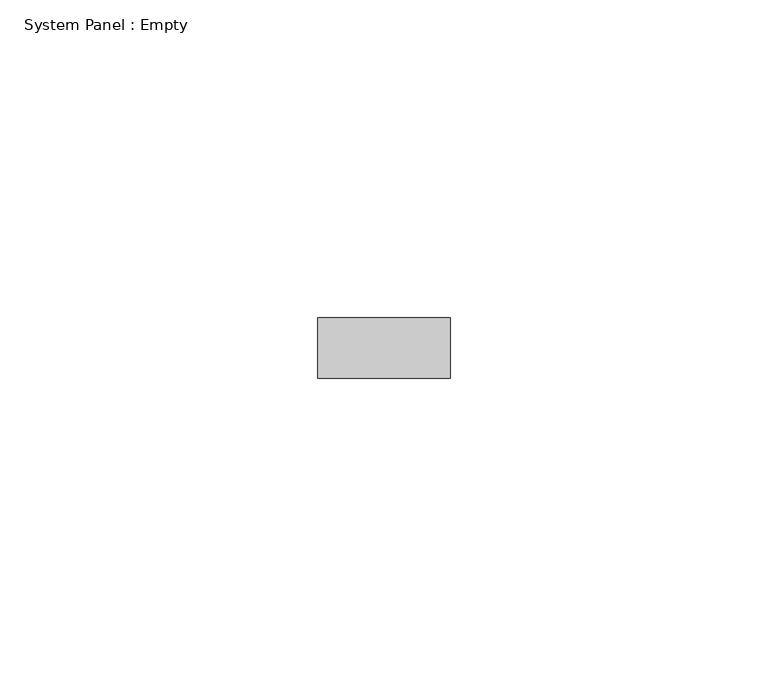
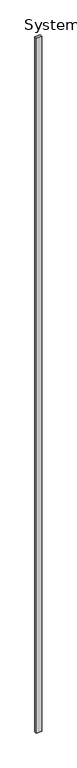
"""IFC4 building model written with IfcOpenShell, lengths in millimetres: plate geometry, System Panel : Empty."""

import ifcopenshell
import ifcopenshell.guid

model = None  # the IFC model being written
_history = None  # IfcOwnerHistory: only IFC2X3 demands one
_inside = {}  # id of a spatial element -> (the spatial element, [elements in it])
_under = {}  # id of a project, library or spatial element -> (it, [spatial elements below it])
_declared = {}  # id of a project -> (the project, [libraries it declares])
_typed = {}  # id of a type object -> (the type object, [elements of that type])
_made_of = {}  # id of a material, layer set ... -> (it, [elements and type objects made of it])


def new_model(schema):
    """Start an empty IFC model of exactly this schema.

    Asked for "IFC4X3", IfcOpenShell would pick the latest addendum, in which some entities
    have other attributes; the version numbers below select the first issue.
    IFC2X3 requires an IfcOwnerHistory on every rooted entity: one is made here for all.
    """
    global model, _history
    if schema == "IFC4X3":
        model = ifcopenshell.file(schema_version=(4, 3, 0, 0))
    else:
        model = ifcopenshell.file(schema=schema)
    _inside.clear()
    _under.clear()
    _declared.clear()
    _typed.clear()
    _made_of.clear()
    _history = None
    if model.schema == "IFC2X3":
        org = make("IfcOrganization", Name="unknown")
        user = make(
            "IfcPersonAndOrganization",
            ThePerson=make("IfcPerson", FamilyName="unknown"),
            TheOrganization=org,
        )
        app = make(
            "IfcApplication",
            ApplicationDeveloper=org,
            Version="unknown",
            ApplicationFullName="unknown",
            ApplicationIdentifier="unknown",
        )
        _history = make(
            "IfcOwnerHistory",
            OwningUser=user,
            OwningApplication=app,
            ChangeAction="ADDED",
            CreationDate=0,
        )
    return model


def make(cls, **values):
    """One entity of the class cls with the attributes given. An attribute that is None is left unset."""
    return model.create_entity(
        cls, **{name: value for name, value in values.items() if value is not None}
    )


def rooted(cls, **values):
    """An entity with a GlobalId (a new one), such as an element, a storey or a relation."""
    return make(cls, GlobalId=ifcopenshell.guid.new(), OwnerHistory=_history, **values)


def si_unit(unit_type, name, prefix=None):
    """IfcSIUnit, for example si_unit("LENGTHUNIT", "METRE", prefix="MILLI")."""
    return make("IfcSIUnit", UnitType=unit_type, Prefix=prefix, Name=name)


def assignment(units):
    """IfcUnitAssignment: the units of a project."""
    return None if units is None else make("IfcUnitAssignment", Units=units)


def point(xyz):
    """IfcCartesianPoint."""
    return None if xyz is None else make("IfcCartesianPoint", Coordinates=xyz)


def direction(xyz):
    """IfcDirection."""
    return None if xyz is None else make("IfcDirection", DirectionRatios=xyz)


def frame(location, z_axis=None, x_axis=None):
    """IfcAxis2Placement3D, a coordinate frame: its origin and axes. An axis left out is left unset."""
    return make(
        "IfcAxis2Placement3D",
        Location=point(location),
        Axis=direction(z_axis),
        RefDirection=direction(x_axis),
    )


def origin():
    """The frame at (0, 0, 0) with its axes left unset."""
    return frame((0.0, 0.0, 0.0))


def origin_with_axes():
    """The frame at (0, 0, 0) with the z axis (0, 0, 1) and the x axis (1, 0, 0) written out."""
    return frame((0.0, 0.0, 0.0), z_axis=(0.0, 0.0, 1.0), x_axis=(1.0, 0.0, 0.0))


def place(relative_to, where):
    """IfcLocalPlacement: puts the frame where relative to a parent placement (None: the world)."""
    return make(
        "IfcLocalPlacement", PlacementRelTo=relative_to, RelativePlacement=where
    )


def context(
    kind, dimensions, precision=None, world=None, true_north=None, identifier=None
):
    """IfcGeometricRepresentationContext, for example the 3D "Model" context."""
    return make(
        "IfcGeometricRepresentationContext",
        ContextIdentifier=identifier,
        ContextType=kind,
        CoordinateSpaceDimension=dimensions,
        Precision=precision,
        WorldCoordinateSystem=world,
        TrueNorth=true_north,
    )


def project(units=None, contexts=None):
    """IfcProject with its units and contexts."""
    return rooted(
        "IfcProject",
        Name="project",
        RepresentationContexts=contexts,
        UnitsInContext=assignment(units),
    )


def spatial(cls, under=None, at=None, **own):
    """A site, building, storey or space (cls), placed at a placement, below another one or the project."""
    s = rooted(cls, ObjectPlacement=at, **own)
    if under is not None:
        _under.setdefault(under.id(), (under, []))[1].append(s)
    return s


def polyline(points):
    """IfcPolyline through the points."""
    return make("IfcPolyline", Points=[point(p) for p in points])


def outline(outer, holes=None, kind="AREA"):
    """IfcArbitraryClosedProfileDef: a profile drawn as a closed curve; with holes, ...WithVoids."""
    if holes is None:
        return make("IfcArbitraryClosedProfileDef", ProfileType=kind, OuterCurve=outer)
    return make(
        "IfcArbitraryProfileDefWithVoids",
        ProfileType=kind,
        OuterCurve=outer,
        InnerCurves=holes,
    )


def extrude(swept, where, along, depth):
    """IfcExtrudedAreaSolid: the profile swept, set in the frame where, extruded along a direction by depth."""
    return make(
        "IfcExtrudedAreaSolid",
        SweptArea=swept,
        Position=where,
        ExtrudedDirection=direction(along),
        Depth=depth,
    )


def shape(context_of_items, identifier, shape_type, items):
    """IfcShapeRepresentation: the items that make up one representation, for example the "Body"."""
    return make(
        "IfcShapeRepresentation",
        ContextOfItems=context_of_items,
        RepresentationIdentifier=identifier,
        RepresentationType=shape_type,
        Items=items,
    )


def source(mapping_origin, context_of_items, identifier, shape_type, items):
    """IfcRepresentationMap: a shape defined once, which mapped items show again and again."""
    return make(
        "IfcRepresentationMap",
        MappingOrigin=mapping_origin,
        MappedRepresentation=shape(context_of_items, identifier, shape_type, items),
    )


def transform(
    local_origin,
    x_axis=None,
    y_axis=None,
    z_axis=None,
    scale=None,
    scale2=None,
    scale3=None,
    uniform=True,
):
    """IfcCartesianTransformationOperator3D, or its non-uniform kind. x_axis, y_axis, z_axis: its Axis1, 2, 3."""
    if uniform:
        return make(
            "IfcCartesianTransformationOperator3D",
            Axis1=direction(x_axis),
            Axis2=direction(y_axis),
            LocalOrigin=point(local_origin),
            Scale=scale,
            Axis3=direction(z_axis),
        )
    return make(
        "IfcCartesianTransformationOperator3DnonUniform",
        Axis1=direction(x_axis),
        Axis2=direction(y_axis),
        LocalOrigin=point(local_origin),
        Scale=scale,
        Axis3=direction(z_axis),
        Scale2=scale2,
        Scale3=scale3,
    )


def mapped(mapping_source, mapping_target):
    """IfcMappedItem: shows the shape of a source again, moved by a transform."""
    return make(
        "IfcMappedItem", MappingSource=mapping_source, MappingTarget=mapping_target
    )


def made_of(thing, what):
    """Note that an element or type object is made of a material, layer set ...; save() writes the relation."""
    if what is not None:
        _made_of.setdefault(what.id(), (what, []))[1].append(thing)
    return thing


def element(
    cls,
    number,
    at=None,
    inside=None,
    cuts=None,
    type_object=None,
    material=None,
    context=None,
    identifier="Body",
    shape_type=None,
    held_by="IfcProductDefinitionShape",
    body=None,
    shapes=None,
    **own,
):
    """One element of the class cls, such as IfcWall. Its Tag is "e" and its number.

    at: its placement. inside: the storey or other place that contains it. cuts: it is an
    opening in that element (IfcRelVoidsElement). A single representation is given by context,
    identifier, shape_type and body (its items); several are given by shapes. held_by: the class
    of the entity that holds the representations. save() writes the other relations.
    """
    e = rooted(cls, Tag="e%d" % number, ObjectPlacement=at, **own)
    if body is not None:
        shapes = [shape(context, identifier, shape_type, body)]
    if shapes is not None:
        e.Representation = make(held_by, Representations=shapes)
    if inside is not None:
        _inside.setdefault(inside.id(), (inside, []))[1].append(e)
    if cuts is not None:
        rooted(
            "IfcRelVoidsElement", RelatingBuildingElement=cuts, RelatedOpeningElement=e
        )
    if type_object is not None:
        _typed.setdefault(type_object.id(), (type_object, []))[1].append(e)
    return made_of(e, material)


def aggregate(whole, parts):
    """IfcRelAggregates: a whole, such as a stair, and the parts it consists of."""
    return rooted("IfcRelAggregates", RelatingObject=whole, RelatedObjects=parts)


def save(model, path):
    """Write the relations noted so far, then the file.

    IfcRelAggregates (storeys below a building ...), IfcRelContainedInSpatialStructure (elements
    in a storey), IfcRelDefinesByType, IfcRelAssociatesMaterial and IfcRelDeclares: one each for
    every whole, place, type object, material and project.
    """
    for whole, parts in _under.values():
        aggregate(whole, parts)
    for where, things in _inside.values():
        rooted(
            "IfcRelContainedInSpatialStructure",
            RelatedElements=things,
            RelatingStructure=where,
        )
    for kind, things in _typed.values():
        rooted("IfcRelDefinesByType", RelatedObjects=things, RelatingType=kind)
    for what, things in _made_of.values():
        rooted("IfcRelAssociatesMaterial", RelatedObjects=things, RelatingMaterial=what)
    for by, libraries in _declared.values():
        rooted("IfcRelDeclares", RelatingContext=by, RelatedDefinitions=libraries)
    model.write(path)


def system_panel_empty_6771c708(model_context):
    return source(origin(), model_context, "Body", "SweptSolid", [
        extrude(outline(polyline([(10.4410182, -4.7625), (-10.4410182, -4.7625), (-10.4410182, 4.7625), (10.4410182, 4.7625), (10.4410182, -4.7625)])), origin_with_axes(), (0.0, 0.0, 1.0), 2764.1056955),
    ])


if __name__ == "__main__":
    model = new_model("IFC4")
    model_context = context("Model", 3, world=origin())
    ifc_project = project(units=[si_unit("LENGTHUNIT", "METRE", prefix="MILLI")], contexts=[model_context])
    site = spatial("IfcSite", under=ifc_project)
    building = spatial("IfcBuilding", under=site)
    placement = place(None, origin())
    system_panel_empty_shape = system_panel_empty_6771c708(model_context)
    element("IfcPlate", 1, ObjectType="System Panel : Empty", at=placement, inside=building, context=model_context, shape_type="MappedRepresentation", body=[
        mapped(system_panel_empty_shape, transform((0.0, 0.0, 0.0), x_axis=(1.0, 0.0, 0.0), y_axis=(0.0, 1.0, 0.0), z_axis=(0.0, 0.0, 1.0))),
    ])
    save(model, "model.ifc")
